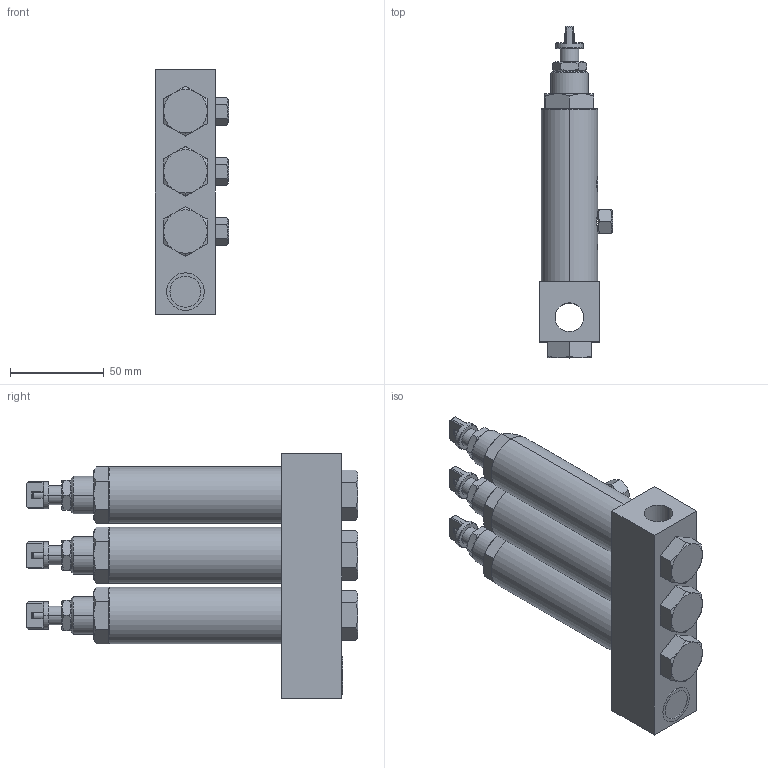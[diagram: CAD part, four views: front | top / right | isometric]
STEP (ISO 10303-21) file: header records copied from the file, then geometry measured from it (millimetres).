
FILE_DESCRIPTION (( 'STEP AP203' ), '1' );
FILE_NAME ('ASL-03.STEP', '2020-04-18T03:37:20', ( '个人用户' ), ( '微软中国' ), 'SwSTEP 2.0', 'SolidWorks 2018', '' );
FILE_SCHEMA (( 'CONFIG_CONTROL_DESIGN' ));
Length unit declared in the file: millimetre
Products named in the file (1): ASL-03
Bounding box: 39 x 176.5 x 130 mm (x, y, z)
Surface area: 65928.9 mm2 (no closed solid volume)
Topology: 0 solids, 33 shells, 342 faces, 939 edges, 625 vertices
Faces by surface type: plane 176, cone 96, cylinder 58, torus 6, sphere 6
Entity records: 12449 total; most frequent: CARTESIAN_POINT 4001, DIRECTION 1698, ORIENTED_EDGE 1658, EDGE_CURVE 924, AXIS2_PLACEMENT_3D 637, VERTEX_POINT 616, VECTOR 424, LINE 424
